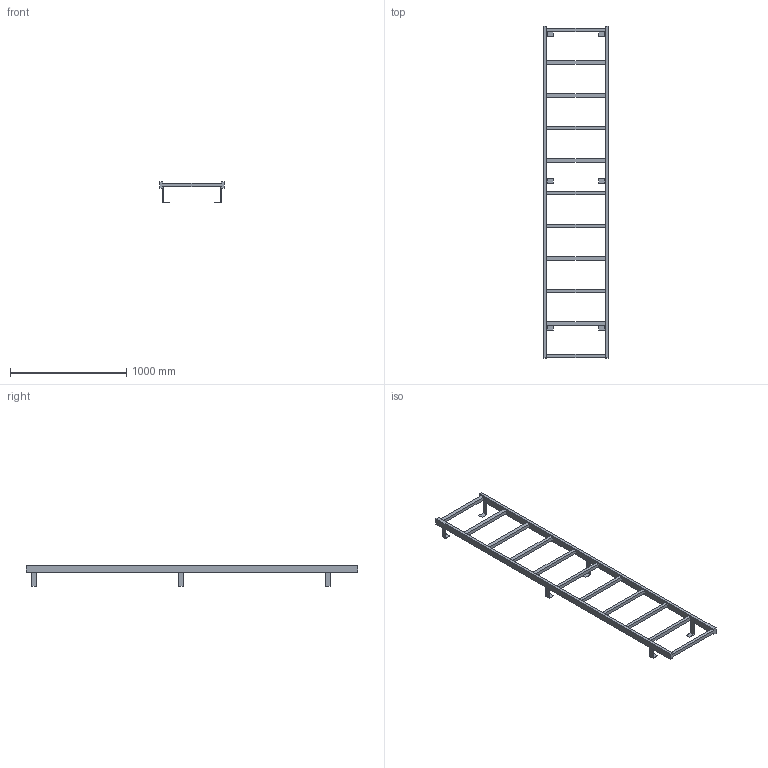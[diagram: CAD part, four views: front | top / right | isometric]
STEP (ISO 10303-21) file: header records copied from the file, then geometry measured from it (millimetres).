
FILE_DESCRIPTION((''),'2;1');
FILE_NAME('52311191','2024-10-17T13:46:12',('wep'),('HUBER SE'),'CREO PARAMETRIC BY PTC INC, 2022162','CREO PARAMETRIC BY PTC INC, 2022162','');
FILE_SCHEMA(('AUTOMOTIVE_DESIGN { 1 0 10303 214 1 1 1 1 }'));
Length unit declared in the file: millimetre
Products named in the file (1): 52311191
Bounding box: 550 x 2850 x 178.5 mm (x, y, z)
Volume: 13169940 mm3; surface area: 1670052 mm2
Topology: 1 solids, 1 shells, 102 faces, 296 edges, 192 vertices
Faces by surface type: plane 102
Entity records: 3881 total; most frequent: CARTESIAN_POINT 592, ORIENTED_EDGE 592, DIRECTION 500, VECTOR 296, LINE 296, EDGE_CURVE 296, VERTEX_POINT 192, EDGE_LOOP 118
